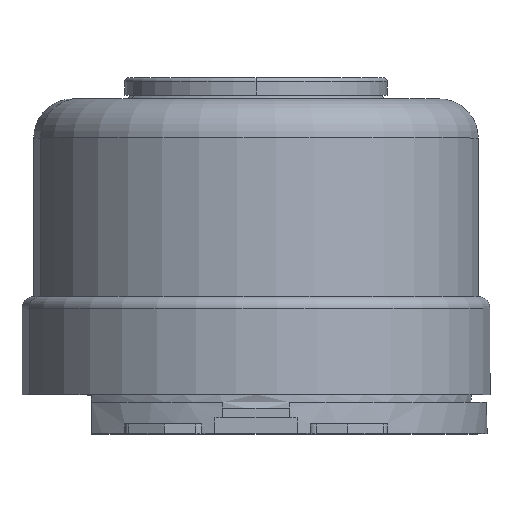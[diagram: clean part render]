
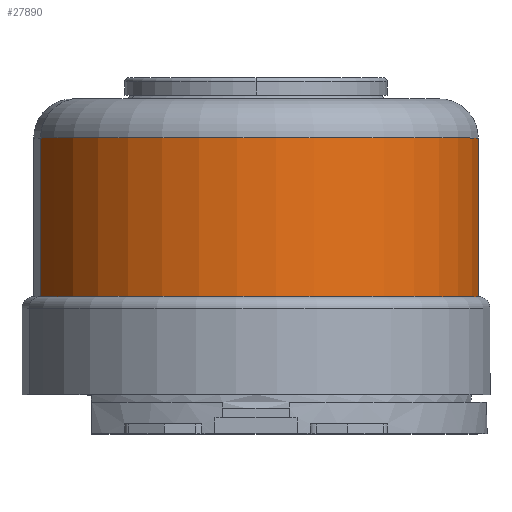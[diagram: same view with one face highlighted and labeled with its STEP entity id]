
A CAD part, top view. The second image highlights one B-rep face of the part: STEP entity #27890.
In plain terms, the highlighted cylindrical face has radius 5.695 mm (diameter 11.39 mm), a partial arc.
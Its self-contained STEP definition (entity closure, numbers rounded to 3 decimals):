
#26990=CARTESIAN_POINT('',(5.499,3.5,-1.481));
#27000=VERTEX_POINT('',#26990);
#27090=CARTESIAN_POINT('',(-5.499,3.5,1.481));
#27100=VERTEX_POINT('',#27090);
#27130=CARTESIAN_POINT('',(0.,3.5,
0.));
#27140=DIRECTION('',(0.,-1.,0.));
#27150=DIRECTION('',(-0.966,0.,0.26));
#27160=AXIS2_PLACEMENT_3D('',#27130,#27140,#27150);
#27170=CIRCLE('',#27160,5.695);
#27180=EDGE_CURVE('',#27000,#27100,#27170,.T.);
#27580=CARTESIAN_POINT('',(0.,0.584,
0.));
#27590=DIRECTION('',(-0.,-1.,-0.));
#27600=DIRECTION('',(-0.966,0.,0.26));
#27610=AXIS2_PLACEMENT_3D('',#27580,#27590,#27600);
#27620=CYLINDRICAL_SURFACE('',#27610,5.695);
#27630=CARTESIAN_POINT('',(-5.499,0.584,
1.481));
#27640=DIRECTION('',(-0.,-1.,-0.));
#27650=VECTOR('',#27640,1.);
#27660=LINE('',#27630,#27650);
#27670=CARTESIAN_POINT('',(-5.499,7.55,1.481));
#27680=VERTEX_POINT('',#27670);
#27690=EDGE_CURVE('',#27680,#27100,#27660,.T.);
#27700=ORIENTED_EDGE('',*,*,#27690,.T.);
#27710=CARTESIAN_POINT('',(0.,7.55,
0.));
#27720=DIRECTION('',(0.,1.,0.));
#27730=DIRECTION('',(-0.966,0.,0.26));
#27740=AXIS2_PLACEMENT_3D('',#27710,#27720,#27730);
#27750=CIRCLE('',#27740,5.695);
#27760=CARTESIAN_POINT('',(5.499,7.55,-1.481));
#27770=VERTEX_POINT('',#27760);
#27780=EDGE_CURVE('',#27680,#27770,#27750,.T.);
#27790=ORIENTED_EDGE('',*,*,#27780,.F.);
#27800=CARTESIAN_POINT('',(5.499,0.584,
-1.481));
#27810=DIRECTION('',(-0.,-1.,-0.));
#27820=VECTOR('',#27810,1.);
#27830=LINE('',#27800,#27820);
#27840=EDGE_CURVE('',#27770,#27000,#27830,.T.);
#27850=ORIENTED_EDGE('',*,*,#27840,.F.);
#27860=ORIENTED_EDGE('',*,*,#27180,.F.);
#27870=EDGE_LOOP('',(#27860,#27850,#27790,#27700));
#27880=FACE_OUTER_BOUND('',#27870,.T.);
#27890=ADVANCED_FACE('',(#27880),#27620,.T.);
